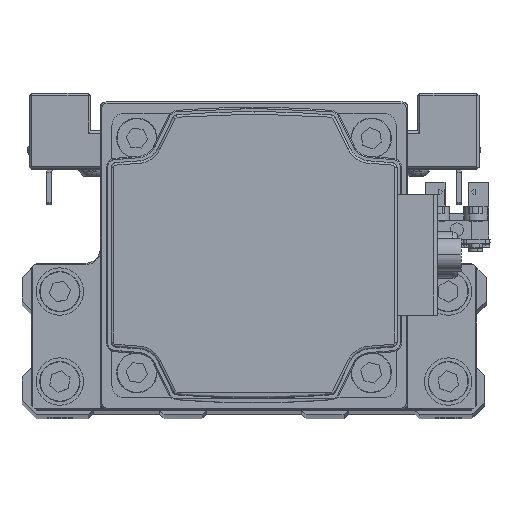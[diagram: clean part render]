
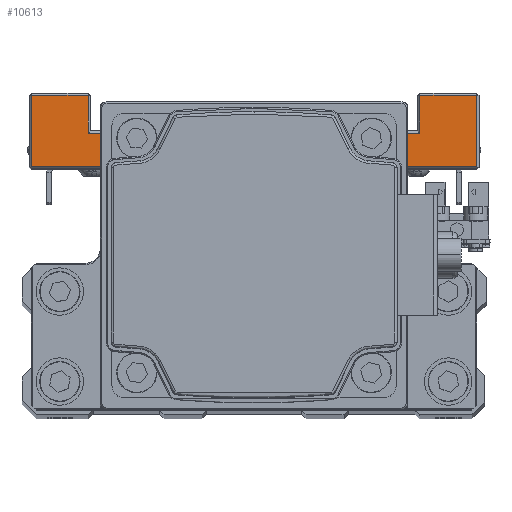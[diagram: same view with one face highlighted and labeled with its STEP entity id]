
A CAD part, top view. The second image highlights one B-rep face of the part: STEP entity #10613.
In plain terms, the highlighted planar face has unit normal (0, 0, 1) as drawn and (1, 0, 0) by its records, which use the part's own axes.
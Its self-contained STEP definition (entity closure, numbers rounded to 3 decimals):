
#358 = LINE ( 'NONE', #12833, #35459 ) ;
#377 = CARTESIAN_POINT ( 'NONE',  ( 47., -7.5, 20. ) ) ;
#720 = CARTESIAN_POINT ( 'NONE',  ( 47., 8., -47. ) ) ;
#980 = VECTOR ( 'NONE', #18300, 1000. ) ;
#1268 = LINE ( 'NONE', #13745, #4839 ) ;
#1403 = VERTEX_POINT ( 'NONE', #17354 ) ;
#1623 = LINE ( 'NONE', #14103, #12482 ) ;
#2303 = CARTESIAN_POINT ( 'NONE',  ( 47., 8., 20. ) ) ;
#2614 = CARTESIAN_POINT ( 'NONE',  ( 47., 23., 47. ) ) ;
#2894 = DIRECTION ( 'NONE',  ( -1., 0., 0. ) ) ;
#3513 = ORIENTED_EDGE ( 'NONE', *, *, #28548, .T. ) ;
#3829 = EDGE_CURVE ( 'NONE', #1403, #29236, #14537, .T. ) ;
#4226 = ORIENTED_EDGE ( 'NONE', *, *, #11868, .T. ) ;
#4740 = EDGE_CURVE ( 'NONE', #26686, #5009, #11409, .T. ) ;
#4818 = LINE ( 'NONE', #17305, #29313 ) ;
#4839 = VECTOR ( 'NONE', #26254, 1000. ) ;
#4967 = VECTOR ( 'NONE', #30110, 1000. ) ;
#5009 = VERTEX_POINT ( 'NONE', #720 ) ;
#5102 = LINE ( 'NONE', #17587, #4967 ) ;
#5803 = DIRECTION ( 'NONE',  ( 0., -1., 0. ) ) ;
#5805 = CARTESIAN_POINT ( 'NONE',  ( 47., 8., 20. ) ) ;
#5941 = ORIENTED_EDGE ( 'NONE', *, *, #29726, .T. ) ;
#5949 = FACE_OUTER_BOUND ( 'NONE', #32447, .T. ) ;
#6028 = ORIENTED_EDGE ( 'NONE', *, *, #3829, .T. ) ;
#7512 = DIRECTION ( 'NONE',  ( 0., 0., -1. ) ) ;
#7695 = VERTEX_POINT ( 'NONE', #28660 ) ;
#7891 = VERTEX_POINT ( 'NONE', #20622 ) ;
#8204 = DIRECTION ( 'NONE',  ( 0., -1., 0. ) ) ;
#8883 = VERTEX_POINT ( 'NONE', #2303 ) ;
#10608 = DIRECTION ( 'NONE',  ( 0., 1., 0. ) ) ;
#10613 = ADVANCED_FACE ( 'NONE', ( #5949 ), #18449, .F. ) ;
#10754 = CARTESIAN_POINT ( 'NONE',  ( 47., 15., -35. ) ) ;
#10820 = ORIENTED_EDGE ( 'NONE', *, *, #32719, .F. ) ;
#11409 = LINE ( 'NONE', #23889, #28226 ) ;
#11868 = EDGE_CURVE ( 'NONE', #8883, #27829, #21371, .T. ) ;
#12482 = VECTOR ( 'NONE', #26615, 1000. ) ;
#12833 = CARTESIAN_POINT ( 'NONE',  ( 47., 7.5, 47. ) ) ;
#13397 = EDGE_CURVE ( 'NONE', #7695, #1403, #4818, .T. ) ;
#13745 = CARTESIAN_POINT ( 'NONE',  ( 47., 15., -20. ) ) ;
#13874 = VERTEX_POINT ( 'NONE', #30540 ) ;
#14103 = CARTESIAN_POINT ( 'NONE',  ( 47., 23., -20. ) ) ;
#14488 = ORIENTED_EDGE ( 'NONE', *, *, #30059, .T. ) ;
#14537 = LINE ( 'NONE', #27049, #29907 ) ;
#15372 = DIRECTION ( 'NONE',  ( 0., 0., 1. ) ) ;
#15885 = VERTEX_POINT ( 'NONE', #28071 ) ;
#17305 = CARTESIAN_POINT ( 'NONE',  ( 47., 23., -20. ) ) ;
#17320 = ORIENTED_EDGE ( 'NONE', *, *, #17859, .T. ) ;
#17354 = CARTESIAN_POINT ( 'NONE',  ( 47., 23., -35. ) ) ;
#17587 = CARTESIAN_POINT ( 'NONE',  ( 47., 7.5, -47. ) ) ;
#17614 = VERTEX_POINT ( 'NONE', #2614 ) ;
#17859 = EDGE_CURVE ( 'NONE', #27829, #7891, #23055, .T. ) ;
#18300 = DIRECTION ( 'NONE',  ( 0., 0., -1. ) ) ;
#18449 = PLANE ( 'NONE',  #37745 ) ;
#20622 = CARTESIAN_POINT ( 'NONE',  ( 47., -7.5, -20. ) ) ;
#20797 = CARTESIAN_POINT ( 'NONE',  ( 47., 15., 35. ) ) ;
#20870 = VECTOR ( 'NONE', #8204, 1000. ) ;
#21340 = VECTOR ( 'NONE', #5803, 1000. ) ;
#21371 = LINE ( 'NONE', #33894, #21340 ) ;
#23055 = LINE ( 'NONE', #35589, #33416 ) ;
#23757 = LINE ( 'NONE', #36288, #20870 ) ;
#23889 = CARTESIAN_POINT ( 'NONE',  ( 47., 8., -47. ) ) ;
#25340 = DIRECTION ( 'NONE',  ( 0., -1., 0. ) ) ;
#25922 = ORIENTED_EDGE ( 'NONE', *, *, #34390, .T. ) ;
#26169 = LINE ( 'NONE', #38682, #27150 ) ;
#26254 = DIRECTION ( 'NONE',  ( 0., 0., 1. ) ) ;
#26564 = CARTESIAN_POINT ( 'NONE',  ( 47., 8., -20. ) ) ;
#26615 = DIRECTION ( 'NONE',  ( 0., 0., 1. ) ) ;
#26686 = VERTEX_POINT ( 'NONE', #26564 ) ;
#26745 = VERTEX_POINT ( 'NONE', #20797 ) ;
#27049 = CARTESIAN_POINT ( 'NONE',  ( 47., 7.5, -35. ) ) ;
#27150 = VECTOR ( 'NONE', #10608, 1000. ) ;
#27565 = EDGE_CURVE ( 'NONE', #29236, #26745, #1268, .T. ) ;
#27654 = ORIENTED_EDGE ( 'NONE', *, *, #13397, .T. ) ;
#27829 = VERTEX_POINT ( 'NONE', #377 ) ;
#28071 = CARTESIAN_POINT ( 'NONE',  ( 47., 23., 35. ) ) ;
#28226 = VECTOR ( 'NONE', #36416, 1000. ) ;
#28548 = EDGE_CURVE ( 'NONE', #13874, #8883, #33896, .T. ) ;
#28660 = CARTESIAN_POINT ( 'NONE',  ( 47., 23., -47. ) ) ;
#28711 = ORIENTED_EDGE ( 'NONE', *, *, #27565, .T. ) ;
#29187 = ORIENTED_EDGE ( 'NONE', *, *, #36891, .T. ) ;
#29236 = VERTEX_POINT ( 'NONE', #10754 ) ;
#29313 = VECTOR ( 'NONE', #29822, 1000. ) ;
#29726 = EDGE_CURVE ( 'NONE', #5009, #7695, #5102, .T. ) ;
#29822 = DIRECTION ( 'NONE',  ( 0., 0., 1. ) ) ;
#29907 = VECTOR ( 'NONE', #39555, 1000. ) ;
#30059 = EDGE_CURVE ( 'NONE', #26745, #15885, #26169, .T. ) ;
#30110 = DIRECTION ( 'NONE',  ( 0., 1., 0. ) ) ;
#30540 = CARTESIAN_POINT ( 'NONE',  ( 47., 8., 47. ) ) ;
#30969 = CARTESIAN_POINT ( 'NONE',  ( 47., 7.5, -20. ) ) ;
#32447 = EDGE_LOOP ( 'NONE', ( #10820, #32961, #5941, #27654, #6028, #28711, #14488, #25922, #29187, #3513, #4226, #17320 ) ) ;
#32719 = EDGE_CURVE ( 'NONE', #26686, #7891, #23757, .T. ) ;
#32961 = ORIENTED_EDGE ( 'NONE', *, *, #4740, .T. ) ;
#33416 = VECTOR ( 'NONE', #7512, 1000. ) ;
#33894 = CARTESIAN_POINT ( 'NONE',  ( 47., 7.5, 20. ) ) ;
#33896 = LINE ( 'NONE', #5805, #980 ) ;
#34390 = EDGE_CURVE ( 'NONE', #15885, #17614, #1623, .T. ) ;
#35459 = VECTOR ( 'NONE', #25340, 1000. ) ;
#35589 = CARTESIAN_POINT ( 'NONE',  ( 47., -7.5, -20. ) ) ;
#36288 = CARTESIAN_POINT ( 'NONE',  ( 47., 7.5, -20. ) ) ;
#36416 = DIRECTION ( 'NONE',  ( 0., 0., -1. ) ) ;
#36891 = EDGE_CURVE ( 'NONE', #17614, #13874, #358, .T. ) ;
#37745 = AXIS2_PLACEMENT_3D ( 'NONE', #30969, #2894, #15372 ) ;
#38682 = CARTESIAN_POINT ( 'NONE',  ( 47., 7.5, 35. ) ) ;
#39555 = DIRECTION ( 'NONE',  ( 0., -1., 0. ) ) ;
